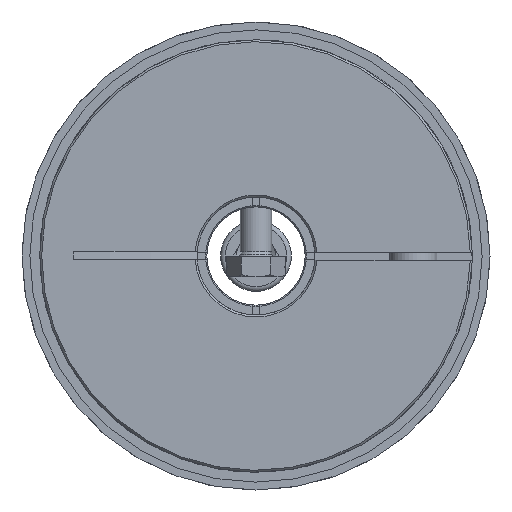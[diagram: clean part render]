
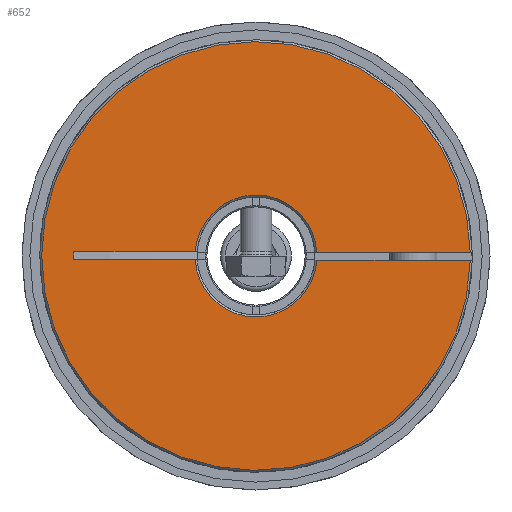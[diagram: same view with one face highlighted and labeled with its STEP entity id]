
A CAD part, left-side view. The second image highlights one B-rep face of the part: STEP entity #652.
In plain terms, the highlighted planar face has unit normal (-1, 0, 0).
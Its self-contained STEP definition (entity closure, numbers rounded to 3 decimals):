
#652 = ADVANCED_FACE( 'NONE', ( #1359 ), #1360, .F. );
#1359 = FACE_OUTER_BOUND( '', #1984, .T. );
#1360 = PLANE( '', #1985 );
#1984 = EDGE_LOOP( '', ( #3175, #3176, #3177, #3178, #3179, #3180, #3181, #3182 ) );
#1985 = AXIS2_PLACEMENT_3D( '', #3183, #3184, #3185 );
#3175 = ORIENTED_EDGE( '', *, *, #3643, .T. );
#3176 = ORIENTED_EDGE( '', *, *, #3628, .T. );
#3177 = ORIENTED_EDGE( '', *, *, #3639, .T. );
#3178 = ORIENTED_EDGE( '', *, *, #3645, .T. );
#3179 = ORIENTED_EDGE( '', *, *, #3646, .F. );
#3180 = ORIENTED_EDGE( '', *, *, #3647, .T. );
#3181 = ORIENTED_EDGE( '', *, *, #3648, .F. );
#3182 = ORIENTED_EDGE( '', *, *, #3625, .T. );
#3183 = CARTESIAN_POINT( '', ( 0., 15., 0. ) );
#3184 = DIRECTION( '', ( 1., 0., 0. ) );
#3185 = DIRECTION( '', ( 0., 1., 0. ) );
#3625 = EDGE_CURVE( 'NONE', #4190, #4194, #4196, .T. );
#3628 = EDGE_CURVE( 'NONE', #4202, #4200, #4203, .T. );
#3639 = EDGE_CURVE( 'NONE', #4200, #4221, #4222, .T. );
#3643 = EDGE_CURVE( 'NONE', #4194, #4202, #4227, .T. );
#3645 = EDGE_CURVE( 'NONE', #4221, #4230, #4231, .F. );
#3646 = EDGE_CURVE( 'NONE', #4232, #4230, #4233, .F. );
#3647 = EDGE_CURVE( 'NONE', #4232, #4234, #4235, .T. );
#3648 = EDGE_CURVE( 'NONE', #4190, #4234, #4236, .F. );
#4190 = VERTEX_POINT( 'NONE', #5353 );
#4194 = VERTEX_POINT( 'NONE', #5360 );
#4196 = LINE( '', #5362, #5363 );
#4200 = VERTEX_POINT( 'NONE', #5367 );
#4202 = VERTEX_POINT( 'NONE', #5372 );
#4203 = CIRCLE( '', #5373, 15.5 );
#4221 = VERTEX_POINT( 'NONE', #5399 );
#4222 = LINE( '', #5400, #5401 );
#4227 = LINE( '', #5410, #5411 );
#4230 = VERTEX_POINT( 'NONE', #5414 );
#4231 = CIRCLE( '', #5415, 54.5 );
#4232 = VERTEX_POINT( 'NONE', #5416 );
#4233 = LINE( '', #5417, #5418 );
#4234 = VERTEX_POINT( 'NONE', #5419 );
#4235 = CIRCLE( '', #5420, 15.5 );
#4236 = LINE( '', #5421, #5422 );
#5353 = CARTESIAN_POINT( '', ( 0., 46.303, -1. ) );
#5360 = CARTESIAN_POINT( '', ( 0., 46.303, 1. ) );
#5362 = CARTESIAN_POINT( '', ( 0., 46.303, -1. ) );
#5363 = VECTOR( '', #6045, 1000. );
#5367 = CARTESIAN_POINT( '', ( 0., -15.468, 1. ) );
#5372 = CARTESIAN_POINT( '', ( 0., 15.468, 1. ) );
#5373 = AXIS2_PLACEMENT_3D( '', #6049, #6050, #6051 );
#5399 = CARTESIAN_POINT( '', ( 0., -54.491, 1. ) );
#5400 = CARTESIAN_POINT( '', ( 0., 15., 1. ) );
#5401 = VECTOR( '', #6069, 1000. );
#5410 = CARTESIAN_POINT( '', ( 0., 15., 1. ) );
#5411 = VECTOR( '', #6074, 1000. );
#5414 = CARTESIAN_POINT( '', ( 0., -54.491, -1. ) );
#5415 = AXIS2_PLACEMENT_3D( '', #6078, #6079, #6080 );
#5416 = CARTESIAN_POINT( '', ( 0., -15.468, -1. ) );
#5417 = CARTESIAN_POINT( '', ( 0., -15., -1. ) );
#5418 = VECTOR( '', #6081, 1000. );
#5419 = CARTESIAN_POINT( '', ( 0., 15.468, -1. ) );
#5420 = AXIS2_PLACEMENT_3D( '', #6082, #6083, #6084 );
#5421 = CARTESIAN_POINT( '', ( 0., -15., -1. ) );
#5422 = VECTOR( '', #6085, 1000. );
#6045 = DIRECTION( '', ( 0., 0., 1. ) );
#6049 = CARTESIAN_POINT( '', ( 0., 0., 0. ) );
#6050 = DIRECTION( '', ( 1., 0., 0. ) );
#6051 = DIRECTION( '', ( 0., 0., -1. ) );
#6069 = DIRECTION( '', ( 0., -1., 0. ) );
#6074 = DIRECTION( '', ( 0., -1., 0. ) );
#6078 = CARTESIAN_POINT( '', ( 0., 0., 0. ) );
#6079 = DIRECTION( '', ( 1., 0., 0. ) );
#6080 = DIRECTION( '', ( 0., 0., -1. ) );
#6081 = DIRECTION( '', ( 0., 1., 0. ) );
#6082 = CARTESIAN_POINT( '', ( 0., 0., 0. ) );
#6083 = DIRECTION( '', ( 1., 0., 0. ) );
#6084 = DIRECTION( '', ( 0., 0., -1. ) );
#6085 = DIRECTION( '', ( 0., 1., 0. ) );
